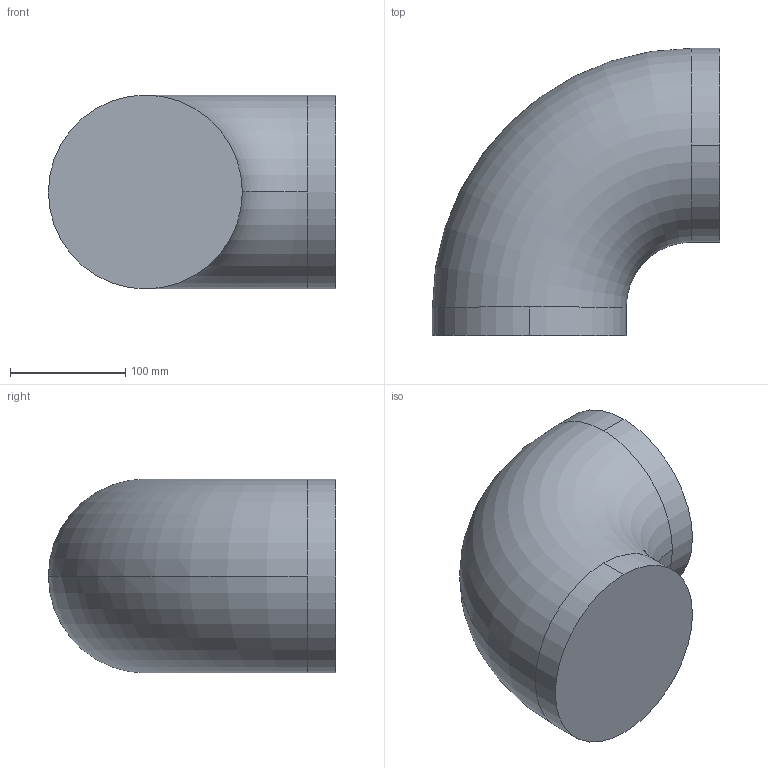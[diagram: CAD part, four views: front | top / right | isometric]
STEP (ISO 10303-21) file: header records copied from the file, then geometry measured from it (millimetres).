
FILE_DESCRIPTION (( 'STEP AP203' ), '1' );
FILE_NAME ('ELBOW_90_06.0 (150)_10-A.STEP', '2014-04-29T15:23:33', ( '' ), ( '' ), 'SwSTEP 2.0', 'SolidWorks 2012', '' );
FILE_SCHEMA (( 'CONFIG_CONTROL_DESIGN' ));
Length unit declared in the file: inch
Products named in the file (1): ELBOW_90_06.0 (150)_10-A
Bounding box: 249.24 x 249.24 x 168.28 mm (x, y, z)
Volume: 6002548.1 mm3; surface area: 187163.7 mm2
Topology: 1 solids, 1 shells, 8 faces, 18 edges, 12 vertices
Faces by surface type: cylinder 4, torus 2, plane 2
Entity records: 315 total; most frequent: DIRECTION 50, CARTESIAN_POINT 39, ORIENTED_EDGE 36, AXIS2_PLACEMENT_3D 23, EDGE_CURVE 18, CIRCLE 14, VERTEX_POINT 12, PERSON_AND_ORGANIZATION 8
